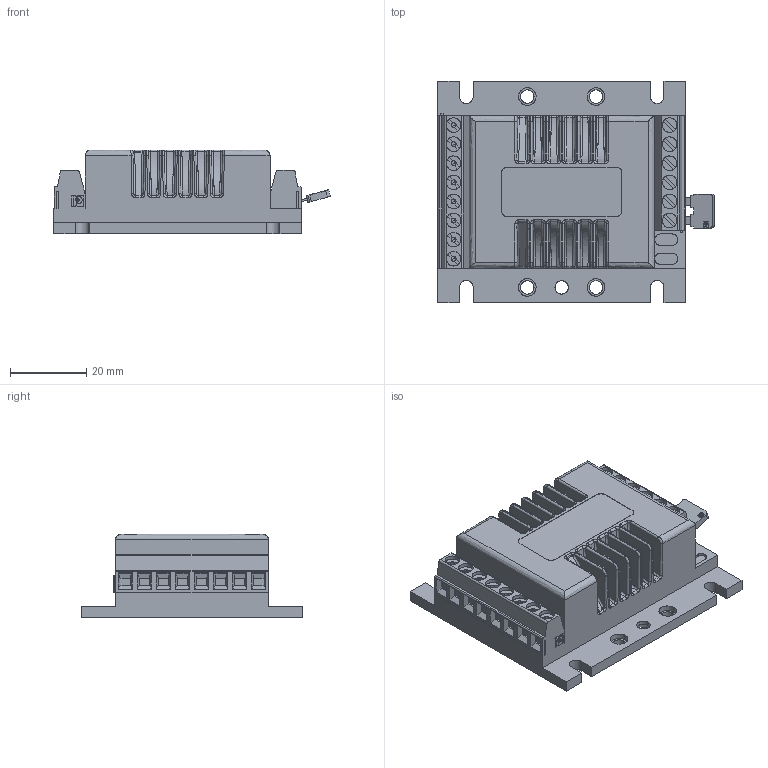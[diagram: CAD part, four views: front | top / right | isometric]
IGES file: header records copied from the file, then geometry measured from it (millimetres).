
Global section: file name: D:\Daten-Huge\PLM_Export\Huellen_aufbr\20120928_fuer_Vertrieb\BC5004_2.igs; native system: NX V7.5; preprocessor: SIEMENS PLM Software NX 7.5; author: DR. FRITZ FAULHABER GmbH & Co. KG; organization: DR. FRITZ FAULHABER GmbH & Co. KG; date: 20120928.153941; units: millimetre
Bounding box: 72.5 x 58 x 22 mm (x, y, z)
Surface area: 17218.8 mm2 (no closed solid volume)
Topology: 0 solids, 0 shells, 1160 faces, 6748 edges, 6688 vertices
Faces by surface type: bspline 1160
